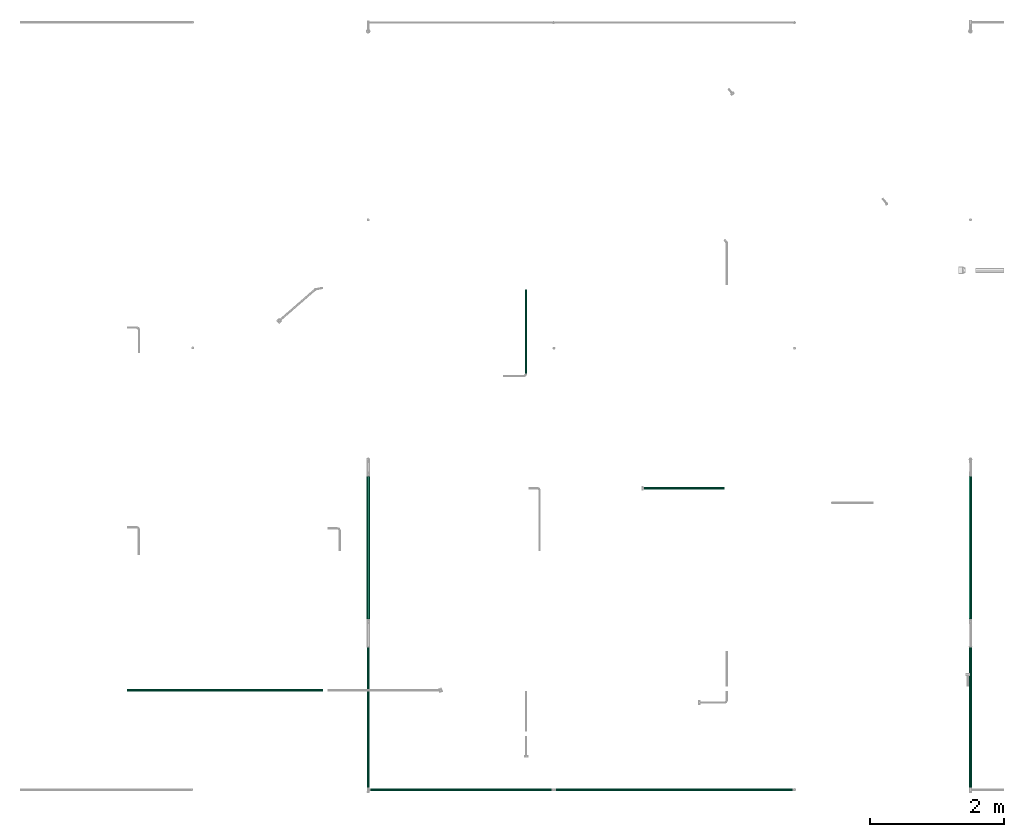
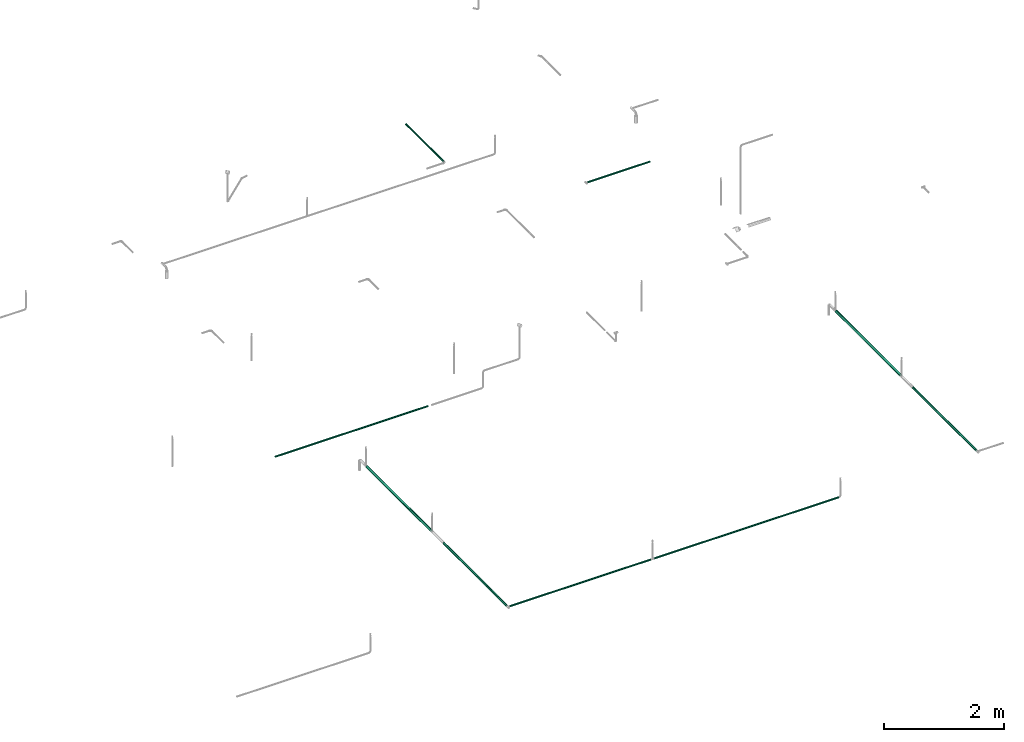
# One storey, part 1 of 63: 9 flow segments.
"""IFC2X3 building model written with IfcOpenShell, lengths in millimetres."""

from ifc_helpers import new_model, entity, si_unit, converted_unit, derived_unit, direction, frame, origin_with_axes, origin_2d_with_axis, place, context, subcontext, project, spatial, hollow_circle, extrude, source, transform, mapped, type_object, element, save


model = new_model("IFC2X3")

# Units and contexts
model_context = context("Model", 3, precision=0.01, world=frame((0.0, 4.29681676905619e-09, 0.0)), true_north=direction((4.01073788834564e-13, 1.0)))
plan_context = context("Plan", 3, precision=0.01, world=frame((0.0, 4.29681676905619e-09, 0.0)), true_north=direction((4.01073788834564e-13, 1.0)))
body_context = subcontext(model_context, "Body", "Model", "MODEL_VIEW")
ifc_project = project(units=[converted_unit("PLANEANGLEUNIT", "DEGREE", entity("IfcPositiveLengthMeasure", 0.0174532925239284), si_unit("PLANEANGLEUNIT", "RADIAN"), dimensions=[0, 0, 0, 0, 0, 0, 0]), si_unit("AREAUNIT", "SQUARE_METRE"), si_unit("LENGTHUNIT", "METRE", prefix="MILLI"), si_unit("MASSUNIT", "GRAM", prefix="KILO"), si_unit("POWERUNIT", "WATT"), si_unit("PRESSUREUNIT", "PASCAL", prefix="KILO"), si_unit("FORCEUNIT", "NEWTON", prefix="KILO"), si_unit("ELECTRICVOLTAGEUNIT", "VOLT"), si_unit("ELECTRICCURRENTUNIT", "AMPERE"), si_unit("THERMODYNAMICTEMPERATUREUNIT", "DEGREE_CELSIUS"), si_unit("TIMEUNIT", "SECOND"), si_unit("VOLUMEUNIT", "CUBIC_METRE"), derived_unit("LINEARVELOCITYUNIT", [(si_unit("LENGTHUNIT", "METRE"), 1), (si_unit("TIMEUNIT", "SECOND"), -1)]), derived_unit("VOLUMETRICFLOWRATEUNIT", [(si_unit("VOLUMEUNIT", "CUBIC_METRE"), 1), (si_unit("TIMEUNIT", "SECOND"), -1)]), derived_unit("THERMALTRANSMITTANCEUNIT", [(si_unit("POWERUNIT", "WATT"), 1), (si_unit("THERMODYNAMICTEMPERATUREUNIT", "KELVIN"), -1), (si_unit("AREAUNIT", "SQUARE_METRE"), -1)]), derived_unit("SOUNDPRESSUREUNIT", [(si_unit("PRESSUREUNIT", "PASCAL"), 1)])], contexts=[model_context, plan_context])

# Site, building, storey
site_placement = place(None, frame((0.0, -4.29681676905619e-09, 0.0), z_axis=(0.0, 0.0, 1.0), x_axis=(1.0, 0.0, 0.0)))
site = spatial("IfcSite", under=ifc_project, at=site_placement, CompositionType="ELEMENT")
building_placement = place(site_placement, frame((0.0, 4.29681676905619e-09, 0.0), z_axis=(0.0, 0.0, 1.0), x_axis=(1.0, 0.0, 0.0)))
building = spatial("IfcBuilding", under=site, at=building_placement, Name="mc-building", CompositionType="ELEMENT")
storey_placement = place(building_placement, frame((0.0, 0.0, 207370.0), z_axis=(0.0, 0.0, 1.0), x_axis=(1.0, 0.0, 0.0)))
storey = spatial("IfcBuildingStorey", under=building, at=storey_placement, Name="Nivå E", CompositionType="ELEMENT", Elevation=207370.0)

# Flow segments
pipe_segment_type = type_object("IfcPipeSegmentType", Name="Stålrør normaltykke", PredefinedType="RIGIDSEGMENT")
shared_shape_1 = source(origin_with_axes(), body_context, "Body", "SweptSolid", [
    extrude(hollow_circle(Radius=21.2, WallThickness=2.0, at=origin_2d_with_axis()), frame((0.0, 0.0, 0.0), z_axis=(1.0, 0.0, 0.0), x_axis=(0.0, 1.0, 0.0)), (0.0, 0.0, 1.0), 2095.2),
])
flow_segment_1_placement = place(storey_placement, frame((728641.29045, 436823.40604, 2700.0), z_axis=(0.0, 0.0, 1.0), x_axis=(0.0, -1.0, 0.0)))
element("IfcFlowSegment", 1, at=flow_segment_1_placement, inside=storey, type_object=pipe_segment_type, Name="Stålrør normaltykke", context=body_context, shape_type="MappedRepresentation", body=[
    mapped(shared_shape_1, transform((0.0, 0.0, 0.0), scale=1.0)),
])
shared_shape_2 = source(origin_with_axes(), body_context, "Body", "SweptSolid", [
    extrude(hollow_circle(Radius=24.1, WallThickness=2.0, at=origin_2d_with_axis()), frame((0.0, 0.0, 0.0), z_axis=(1.0, 0.0, 0.0), x_axis=(0.0, 1.0, 0.0)), (0.0, 0.0, 1.0), 2132.4),
])
for number, where, z_axis, x_axis in (
    (2, (728641.29045, 439378.01651, 2700.0), (0.0, 0.0, 1.0), (0.0, -1.0, 0.0)),
    (3, (719641.29045, 439378.01651, 2700.0), (0.0, 0.0, 1.0), (0.0, -1.0, 0.0)),
):
    element("IfcFlowSegment", number, at=place(storey_placement, frame(where, z_axis=z_axis, x_axis=x_axis)), inside=storey, type_object=pipe_segment_type, Name="Stålrør normaltykke", context=body_context, shape_type="MappedRepresentation", body=[
        mapped(shared_shape_2, transform((0.0, 0.0, 0.0), scale=1.0)),
    ])
shared_shape_3 = source(origin_with_axes(), body_context, "Body", "SweptSolid", [
    extrude(hollow_circle(Radius=21.2, WallThickness=2.0, at=origin_2d_with_axis()), frame((0.0, 0.0, 0.0), z_axis=(1.0, 0.0, 0.0), x_axis=(0.0, 1.0, 0.0)), (0.0, 0.0, 1.0), 2093.7),
])
flow_segment_2_placement = place(storey_placement, frame((719641.29045, 436823.40604, 2700.0), z_axis=(0.0, 0.0, 1.0), x_axis=(0.0, -1.0, 0.0)))
element("IfcFlowSegment", 4, at=flow_segment_2_placement, inside=storey, type_object=pipe_segment_type, Name="Stålrør normaltykke", context=body_context, shape_type="MappedRepresentation", body=[
    mapped(shared_shape_3, transform((0.0, 0.0, 0.0), scale=1.0)),
])
shared_shape_4 = source(origin_with_axes(), body_context, "Body", "SweptSolid", [
    extrude(hollow_circle(Radius=16.9, WallThickness=2.0, at=origin_2d_with_axis()), frame((0.0, 0.0, 0.0), z_axis=(1.0, 0.0, 0.0), x_axis=(0.0, 1.0, 0.0)), (0.0, 0.0, 1.0), 3536.2),
])
flow_segment_3_placement = place(storey_placement, frame((722446.70183, 434695.91689, 2700.0), z_axis=(0.0, 0.0, 1.0), x_axis=(1.0, 0.0, 0.0)))
element("IfcFlowSegment", 5, at=flow_segment_3_placement, inside=storey, type_object=pipe_segment_type, Name="Stålrør normaltykke", context=body_context, shape_type="MappedRepresentation", body=[
    mapped(shared_shape_4, transform((0.0, 0.0, 0.0), scale=1.0)),
])
shared_shape_5 = source(origin_with_axes(), body_context, "Body", "SweptSolid", [
    extrude(hollow_circle(Radius=16.9, WallThickness=2.0, at=origin_2d_with_axis()), frame((0.0, 0.0, 0.0), z_axis=(1.0, 0.0, 0.0), x_axis=(0.0, 1.0, 0.0)), (0.0, 0.0, 1.0), 2706.0),
])
flow_segment_4_placement = place(storey_placement, frame((719673.09045, 434695.91689, 2700.0), z_axis=(0.0, 0.0, 1.0), x_axis=(1.0, 0.0, 0.0)))
element("IfcFlowSegment", 6, at=flow_segment_4_placement, inside=storey, type_object=pipe_segment_type, Name="Stålrør normaltykke", context=body_context, shape_type="MappedRepresentation", body=[
    mapped(shared_shape_5, transform((0.0, 0.0, 0.0), scale=1.0)),
])
shared_shape_6 = source(origin_with_axes(), body_context, "Body", "SweptSolid", [
    extrude(hollow_circle(Radius=16.9, WallThickness=2.0, at=origin_2d_with_axis()), frame((0.0, 0.0, 0.0), z_axis=(1.0, 0.0, 0.0), x_axis=(0.0, 1.0, 0.0)), (0.0, 0.0, 1.0), 2932.4),
])
flow_segment_5_placement = place(storey_placement, frame((716033.8, 436180.95076, 6105.448), z_axis=(1.1999999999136e-05, 0.0, 0.999999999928), x_axis=(0.999999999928, 0.0, -1.1999999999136e-05)))
element("IfcFlowSegment", 7, at=flow_segment_5_placement, inside=storey, type_object=pipe_segment_type, Name="Stålrør normaltykke", context=body_context, shape_type="MappedRepresentation", body=[
    mapped(shared_shape_6, transform((0.0, 0.0, 0.0), scale=1.0, scale2=1.0, scale3=1.0, uniform=False)),
])
shared_shape_7 = source(origin_with_axes(), body_context, "Body", "SweptSolid", [
    extrude(hollow_circle(Radius=16.9, WallThickness=2.0, at=origin_2d_with_axis()), frame((0.0, 0.0, 0.0), z_axis=(1.0, 0.0, 0.0), x_axis=(0.0, 1.0, 0.0)), (0.0, 0.0, 1.0), 1255.0),
])
flow_segment_6_placement = place(storey_placement, frame((722000.0, 442166.9, 7130.0), z_axis=(0.0, 0.0, 1.0), x_axis=(0.0, -1.0, 0.0)))
element("IfcFlowSegment", 8, at=flow_segment_6_placement, inside=storey, type_object=pipe_segment_type, Name="Stålrør normaltykke", context=body_context, shape_type="MappedRepresentation", body=[
    mapped(shared_shape_7, transform((0.0, 0.0, 0.0), scale=1.0)),
])
shared_shape_8 = source(origin_with_axes(), body_context, "Body", "SweptSolid", [
    extrude(hollow_circle(Radius=16.9, WallThickness=2.0, at=origin_2d_with_axis()), frame((0.0, 0.0, 0.0), z_axis=(1.0, 0.0, 0.0), x_axis=(0.0, 1.0, 0.0)), (0.0, 0.0, 1.0), 1199.8),
])
flow_segment_7_placement = place(storey_placement, frame((723766.3777, 439200.7, 7130.0), z_axis=(0.0, 0.0, 1.0), x_axis=(1.0, 0.0, 0.0)))
element("IfcFlowSegment", 9, at=flow_segment_7_placement, inside=storey, type_object=pipe_segment_type, Name="Stålrør normaltykke", context=body_context, shape_type="MappedRepresentation", body=[
    mapped(shared_shape_8, transform((0.0, 0.0, 0.0), scale=1.0)),
])

save(model, "model.ifc")
